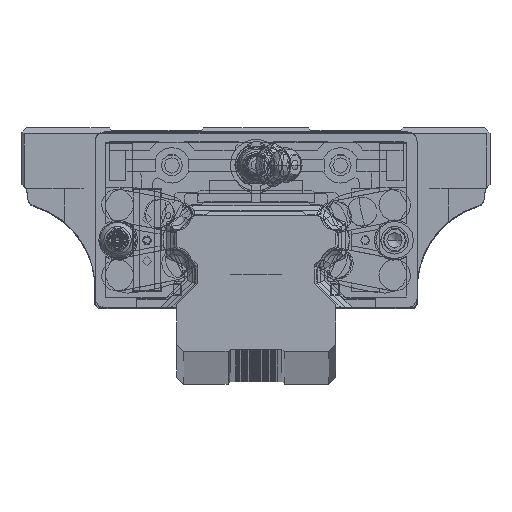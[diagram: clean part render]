
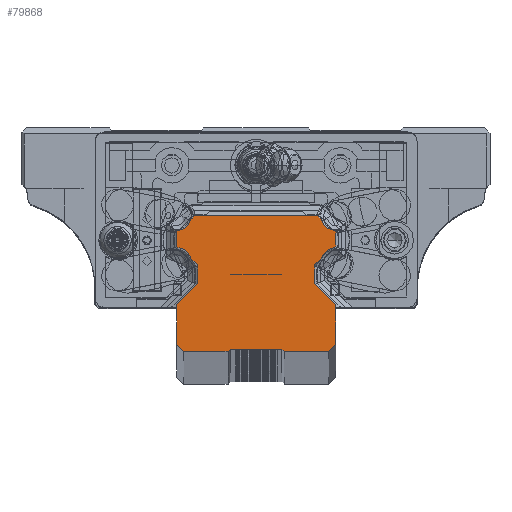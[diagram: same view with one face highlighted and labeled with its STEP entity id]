
A CAD part, top view. The second image highlights one B-rep face of the part: STEP entity #79868.
In plain terms, the highlighted planar face has unit normal (0, 0, 1).
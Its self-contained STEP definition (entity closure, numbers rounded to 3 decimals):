
#73815=DIRECTION('',(0.,-1.,0.));
#73816=VECTOR('',#73815,4.);
#73817=CARTESIAN_POINT('',(-12.5,-5.5,500.));
#73818=LINE('',#73817,#73816);
#73827=DIRECTION('',(0.,-1.,0.));
#73828=VECTOR('',#73827,8.5);
#73829=CARTESIAN_POINT('',(-17.,-14.,500.));
#73830=LINE('',#73829,#73828);
#73839=DIRECTION('',(1.,0.,0.));
#73840=VECTOR('',#73839,9.5);
#73841=CARTESIAN_POINT('',(-15.5,-24.,500.));
#73842=LINE('',#73841,#73840);
#75339=DIRECTION('',(0.,-1.,0.));
#75340=VECTOR('',#75339,2.452);
#75341=CARTESIAN_POINT('',(-17.,1.226,500.));
#75342=LINE('',#75341,#75340);
#75475=DIRECTION('',(1.,0.,0.));
#75476=VECTOR('',#75475,9.5);
#75477=CARTESIAN_POINT('',(6.,-24.,500.));
#75478=LINE('',#75477,#75476);
#75487=DIRECTION('',(0.,1.,0.));
#75488=VECTOR('',#75487,8.5);
#75489=CARTESIAN_POINT('',(17.,-22.5,500.));
#75490=LINE('',#75489,#75488);
#75499=DIRECTION('',(0.,1.,0.));
#75500=VECTOR('',#75499,4.);
#75501=CARTESIAN_POINT('',(12.5,-9.5,500.));
#75502=LINE('',#75501,#75500);
#75519=DIRECTION('',(0.,1.,0.));
#75520=VECTOR('',#75519,2.452);
#75521=CARTESIAN_POINT('',(17.,-1.226,500.));
#75522=LINE('',#75521,#75520);
#75535=CARTESIAN_POINT('',(-17.018,-5.018,500.));
#75536=DIRECTION('',(0.,0.,1.));
#75537=DIRECTION('',(0.951,0.31,0.));
#75538=AXIS2_PLACEMENT_3D('',#75535,#75536,#75537);
#75540=CARTESIAN_POINT('',(-16.35,-1.226,500.));
#75541=DIRECTION('',(0.,0.,-1.));
#75542=DIRECTION('',(-0.173,-0.985,0.));
#75543=AXIS2_PLACEMENT_3D('',#75540,#75541,#75542);
#75545=CARTESIAN_POINT('',(-16.35,1.226,500.));
#75546=DIRECTION('',(0.,0.,-1.));
#75547=DIRECTION('',(-1.,0.,0.));
#75548=AXIS2_PLACEMENT_3D('',#75545,#75546,#75547);
#75550=CARTESIAN_POINT('',(-17.018,5.018,500.));
#75551=DIRECTION('',(0.,0.,1.));
#75552=DIRECTION('',(0.173,-0.985,0.));
#75553=AXIS2_PLACEMENT_3D('',#75550,#75551,#75552);
#75555=DIRECTION('',(0.707,0.707,0.));
#75556=VECTOR('',#75555,1.158);
#75557=CARTESIAN_POINT('',(-13.929,4.181,500.));
#75558=LINE('',#75557,#75556);
#75559=DIRECTION('',(1.,0.,0.));
#75560=VECTOR('',#75559,26.22);
#75561=CARTESIAN_POINT('',(-13.11,5.,500.));
#75562=LINE('',#75561,#75560);
#75563=DIRECTION('',(0.707,-0.707,0.));
#75564=VECTOR('',#75563,1.158);
#75565=CARTESIAN_POINT('',(13.11,5.,500.));
#75566=LINE('',#75565,#75564);
#75567=CARTESIAN_POINT('',(17.018,5.018,500.));
#75568=DIRECTION('',(0.,0.,1.));
#75569=DIRECTION('',(-0.965,-0.261,0.));
#75570=AXIS2_PLACEMENT_3D('',#75567,#75568,#75569);
#75572=CARTESIAN_POINT('',(16.35,1.226,500.));
#75573=DIRECTION('',(0.,0.,-1.));
#75574=DIRECTION('',(0.173,0.985,0.));
#75575=AXIS2_PLACEMENT_3D('',#75572,#75573,#75574);
#75577=CARTESIAN_POINT('',(16.35,-1.226,500.));
#75578=DIRECTION('',(0.,0.,-1.));
#75579=DIRECTION('',(1.,0.,0.));
#75580=AXIS2_PLACEMENT_3D('',#75577,#75578,#75579);
#75582=CARTESIAN_POINT('',(17.018,-5.018,500.));
#75583=DIRECTION('',(0.,0.,1.));
#75584=DIRECTION('',(-0.173,0.985,0.));
#75585=AXIS2_PLACEMENT_3D('',#75582,#75583,#75584);
#75587=DIRECTION('',(-0.707,-0.707,0.));
#75588=VECTOR('',#75587,2.087);
#75589=CARTESIAN_POINT('',(13.976,-4.024,500.));
#75590=LINE('',#75589,#75588);
#75591=DIRECTION('',(0.707,-0.707,0.));
#75592=VECTOR('',#75591,6.364);
#75593=CARTESIAN_POINT('',(12.5,-9.5,500.));
#75594=LINE('',#75593,#75592);
#75595=DIRECTION('',(-0.707,-0.707,0.));
#75596=VECTOR('',#75595,2.121);
#75597=CARTESIAN_POINT('',(17.,-22.5,500.));
#75598=LINE('',#75597,#75596);
#75599=DIRECTION('',(-0.707,0.707,0.));
#75600=VECTOR('',#75599,0.707);
#75601=CARTESIAN_POINT('',(6.,-24.,500.));
#75602=LINE('',#75601,#75600);
#75603=DIRECTION('',(-1.,0.,0.));
#75604=VECTOR('',#75603,11.);
#75605=CARTESIAN_POINT('',(5.5,-23.5,500.));
#75606=LINE('',#75605,#75604);
#75607=DIRECTION('',(-0.707,-0.707,0.));
#75608=VECTOR('',#75607,0.707);
#75609=CARTESIAN_POINT('',(-5.5,-23.5,500.));
#75610=LINE('',#75609,#75608);
#75611=DIRECTION('',(-0.707,0.707,0.));
#75612=VECTOR('',#75611,2.121);
#75613=CARTESIAN_POINT('',(-15.5,-24.,500.));
#75614=LINE('',#75613,#75612);
#75615=DIRECTION('',(0.707,0.707,0.));
#75616=VECTOR('',#75615,6.364);
#75617=CARTESIAN_POINT('',(-17.,-14.,500.));
#75618=LINE('',#75617,#75616);
#75619=DIRECTION('',(-0.707,0.707,0.));
#75620=VECTOR('',#75619,2.087);
#75621=CARTESIAN_POINT('',(-12.5,-5.5,500.));
#75622=LINE('',#75621,#75620);
#76955=CARTESIAN_POINT('',(-13.976,-4.024,500.));
#76956=CARTESIAN_POINT('',(-16.463,-1.866,500.));
#76957=VERTEX_POINT('',#76955);
#76958=VERTEX_POINT('',#76956);
#76959=CARTESIAN_POINT('',(-17.,-1.226,500.));
#76960=VERTEX_POINT('',#76959);
#76961=CARTESIAN_POINT('',(-17.,1.226,500.));
#76962=VERTEX_POINT('',#76961);
#76963=CARTESIAN_POINT('',(-16.463,1.866,500.));
#76964=VERTEX_POINT('',#76963);
#76965=CARTESIAN_POINT('',(-13.929,4.181,500.));
#76966=VERTEX_POINT('',#76965);
#76967=CARTESIAN_POINT('',(-13.11,5.,500.));
#76968=VERTEX_POINT('',#76967);
#76969=CARTESIAN_POINT('',(13.11,5.,500.));
#76970=VERTEX_POINT('',#76969);
#77023=CARTESIAN_POINT('',(13.929,4.181,500.));
#77024=VERTEX_POINT('',#77023);
#77025=CARTESIAN_POINT('',(16.463,1.866,500.));
#77026=VERTEX_POINT('',#77025);
#77027=CARTESIAN_POINT('',(17.,1.226,500.));
#77028=VERTEX_POINT('',#77027);
#77029=CARTESIAN_POINT('',(17.,-1.226,500.));
#77030=VERTEX_POINT('',#77029);
#77031=CARTESIAN_POINT('',(16.463,-1.866,500.));
#77032=VERTEX_POINT('',#77031);
#77033=CARTESIAN_POINT('',(13.976,-4.024,500.));
#77034=VERTEX_POINT('',#77033);
#77035=CARTESIAN_POINT('',(12.5,-5.5,500.));
#77036=VERTEX_POINT('',#77035);
#77037=CARTESIAN_POINT('',(12.5,-9.5,500.));
#77038=VERTEX_POINT('',#77037);
#77039=CARTESIAN_POINT('',(17.,-14.,500.));
#77040=VERTEX_POINT('',#77039);
#77041=CARTESIAN_POINT('',(17.,-22.5,500.));
#77042=VERTEX_POINT('',#77041);
#77043=CARTESIAN_POINT('',(15.5,-24.,500.));
#77044=VERTEX_POINT('',#77043);
#77045=CARTESIAN_POINT('',(6.,-24.,500.));
#77046=VERTEX_POINT('',#77045);
#77047=CARTESIAN_POINT('',(5.5,-23.5,500.));
#77048=VERTEX_POINT('',#77047);
#77049=CARTESIAN_POINT('',(-5.5,-23.5,500.));
#77050=VERTEX_POINT('',#77049);
#77103=CARTESIAN_POINT('',(-6.,-24.,500.));
#77104=VERTEX_POINT('',#77103);
#77105=CARTESIAN_POINT('',(-15.5,-24.,500.));
#77106=VERTEX_POINT('',#77105);
#77107=CARTESIAN_POINT('',(-17.,-22.5,500.));
#77108=VERTEX_POINT('',#77107);
#77109=CARTESIAN_POINT('',(-17.,-14.,500.));
#77110=VERTEX_POINT('',#77109);
#77111=CARTESIAN_POINT('',(-12.5,-9.5,500.));
#77112=VERTEX_POINT('',#77111);
#77113=CARTESIAN_POINT('',(-12.5,-5.5,500.));
#77114=VERTEX_POINT('',#77113);
#79833=CARTESIAN_POINT('',(0.,0.,500.));
#79834=DIRECTION('',(0.,0.,1.));
#79835=DIRECTION('',(1.,0.,0.));
#79836=AXIS2_PLACEMENT_3D('',#79833,#79834,#79835);
#79837=PLANE('',#79836);
#79838=ORIENTED_EDGE('',*,*,#77878,.T.);
#79839=ORIENTED_EDGE('',*,*,#79598,.T.);
#79840=ORIENTED_EDGE('',*,*,#79584,.F.);
#79841=ORIENTED_EDGE('',*,*,#79569,.T.);
#79842=ORIENTED_EDGE('',*,*,#79554,.T.);
#79843=ORIENTED_EDGE('',*,*,#79539,.T.);
#79844=ORIENTED_EDGE('',*,*,#78373,.T.);
#79845=ORIENTED_EDGE('',*,*,#79828,.T.);
#79846=ORIENTED_EDGE('',*,*,#79815,.T.);
#79847=ORIENTED_EDGE('',*,*,#79801,.T.);
#79848=ORIENTED_EDGE('',*,*,#79787,.F.);
#79849=ORIENTED_EDGE('',*,*,#79773,.T.);
#79850=ORIENTED_EDGE('',*,*,#79759,.T.);
#79851=ORIENTED_EDGE('',*,*,#79745,.T.);
#79852=ORIENTED_EDGE('',*,*,#79731,.F.);
#79853=ORIENTED_EDGE('',*,*,#79717,.T.);
#79854=ORIENTED_EDGE('',*,*,#79703,.F.);
#79855=ORIENTED_EDGE('',*,*,#79689,.T.);
#79856=ORIENTED_EDGE('',*,*,#79675,.F.);
#79857=ORIENTED_EDGE('',*,*,#79661,.T.);
#79858=ORIENTED_EDGE('',*,*,#77998,.T.);
#79859=ORIENTED_EDGE('',*,*,#77983,.T.);
#79860=ORIENTED_EDGE('',*,*,#77968,.F.);
#79861=ORIENTED_EDGE('',*,*,#77953,.T.);
#79862=ORIENTED_EDGE('',*,*,#77938,.F.);
#79863=ORIENTED_EDGE('',*,*,#77923,.T.);
#79864=ORIENTED_EDGE('',*,*,#77908,.F.);
#79865=ORIENTED_EDGE('',*,*,#77893,.T.);
#79866=EDGE_LOOP('',(#79838,#79839,#79840,#79841,#79842,#79843,#79844,#79845,
#79846,#79847,#79848,#79849,#79850,#79851,#79852,#79853,#79854,#79855,#79856,
#79857,#79858,#79859,#79860,#79861,#79862,#79863,#79864,#79865));
#79867=FACE_OUTER_BOUND('',#79866,.F.);
#79868=ADVANCED_FACE('',(#79867),#79837,.T.);
#75539=CIRCLE('',#75538,3.2);
#75544=CIRCLE('',#75543,0.65);
#75549=CIRCLE('',#75548,0.65);
#75554=CIRCLE('',#75553,3.2);
#75571=CIRCLE('',#75570,3.2);
#75576=CIRCLE('',#75575,0.65);
#75581=CIRCLE('',#75580,0.65);
#75586=CIRCLE('',#75585,3.2);
#77878=EDGE_CURVE('',#76957,#76958,#75539,.T.);
#77893=EDGE_CURVE('',#77114,#76957,#75622,.T.);
#77908=EDGE_CURVE('',#77114,#77112,#73818,.T.);
#77923=EDGE_CURVE('',#77110,#77112,#75618,.T.);
#77938=EDGE_CURVE('',#77110,#77108,#73830,.T.);
#77953=EDGE_CURVE('',#77106,#77108,#75614,.T.);
#77968=EDGE_CURVE('',#77106,#77104,#73842,.T.);
#77983=EDGE_CURVE('',#77050,#77104,#75610,.T.);
#77998=EDGE_CURVE('',#77048,#77050,#75606,.T.);
#78373=EDGE_CURVE('',#76968,#76970,#75562,.T.);
#79539=EDGE_CURVE('',#76966,#76968,#75558,.T.);
#79554=EDGE_CURVE('',#76964,#76966,#75554,.T.);
#79569=EDGE_CURVE('',#76962,#76964,#75549,.T.);
#79584=EDGE_CURVE('',#76962,#76960,#75342,.T.);
#79598=EDGE_CURVE('',#76958,#76960,#75544,.T.);
#79661=EDGE_CURVE('',#77046,#77048,#75602,.T.);
#79675=EDGE_CURVE('',#77046,#77044,#75478,.T.);
#79689=EDGE_CURVE('',#77042,#77044,#75598,.T.);
#79703=EDGE_CURVE('',#77042,#77040,#75490,.T.);
#79717=EDGE_CURVE('',#77038,#77040,#75594,.T.);
#79731=EDGE_CURVE('',#77038,#77036,#75502,.T.);
#79745=EDGE_CURVE('',#77034,#77036,#75590,.T.);
#79759=EDGE_CURVE('',#77032,#77034,#75586,.T.);
#79773=EDGE_CURVE('',#77030,#77032,#75581,.T.);
#79787=EDGE_CURVE('',#77030,#77028,#75522,.T.);
#79801=EDGE_CURVE('',#77026,#77028,#75576,.T.);
#79815=EDGE_CURVE('',#77024,#77026,#75571,.T.);
#79828=EDGE_CURVE('',#76970,#77024,#75566,.T.);
